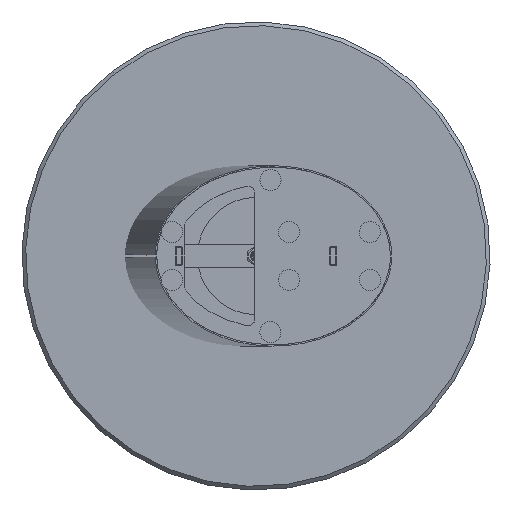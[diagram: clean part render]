
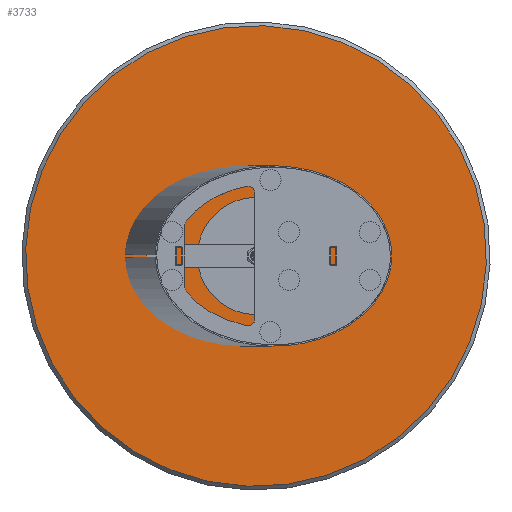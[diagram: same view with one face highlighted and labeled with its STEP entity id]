
A CAD part, front view. The second image highlights one B-rep face of the part: STEP entity #3733.
In plain terms, the highlighted planar face has unit normal (0, -1, 0).
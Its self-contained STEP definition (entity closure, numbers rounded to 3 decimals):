
#669 = DIRECTION ( 'NONE',  ( 0., -1., 0. ) ) ;
#993 = AXIS2_PLACEMENT_3D ( 'NONE', #9596, #669, #4652 ) ;
#1730 = FACE_OUTER_BOUND ( 'NONE', #7562, .T. ) ;
#2393 = EDGE_CURVE ( 'NONE', #12122, #7453, #10354, .T. ) ;
#2648 = DIRECTION ( 'NONE',  ( 0., -1., 0. ) ) ;
#3629 = CARTESIAN_POINT ( 'NONE',  ( 0., 0., 0. ) ) ;
#3733 = ADVANCED_FACE ( 'NONE', ( #1730 ), #7724, .T. ) ;
#4652 = DIRECTION ( 'NONE',  ( 0., 0., -1. ) ) ;
#4995 = AXIS2_PLACEMENT_3D ( 'NONE', #8219, #12456, #12201 ) ;
#5096 = CARTESIAN_POINT ( 'NONE',  ( 0., 0., -492. ) ) ;
#5544 = CARTESIAN_POINT ( 'NONE',  ( 0., 0., 492. ) ) ;
#7453 = VERTEX_POINT ( 'NONE', #5096 ) ;
#7562 = EDGE_LOOP ( 'NONE', ( #9203, #9403 ) ) ;
#7587 = EDGE_CURVE ( 'NONE', #7453, #12122, #7695, .T. ) ;
#7695 = CIRCLE ( 'NONE', #4995, 492. ) ;
#7724 = PLANE ( 'NONE',  #12484 ) ;
#7791 = DIRECTION ( 'NONE',  ( 0., 0., -1. ) ) ;
#8219 = CARTESIAN_POINT ( 'NONE',  ( 0., 0., 0. ) ) ;
#9203 = ORIENTED_EDGE ( 'NONE', *, *, #2393, .T. ) ;
#9403 = ORIENTED_EDGE ( 'NONE', *, *, #7587, .T. ) ;
#9596 = CARTESIAN_POINT ( 'NONE',  ( 0., 0., 0. ) ) ;
#10354 = CIRCLE ( 'NONE', #993, 492. ) ;
#12122 = VERTEX_POINT ( 'NONE', #5544 ) ;
#12201 = DIRECTION ( 'NONE',  ( 0., 0., -1. ) ) ;
#12456 = DIRECTION ( 'NONE',  ( 0., -1., 0. ) ) ;
#12484 = AXIS2_PLACEMENT_3D ( 'NONE', #3629, #2648, #7791 ) ;
